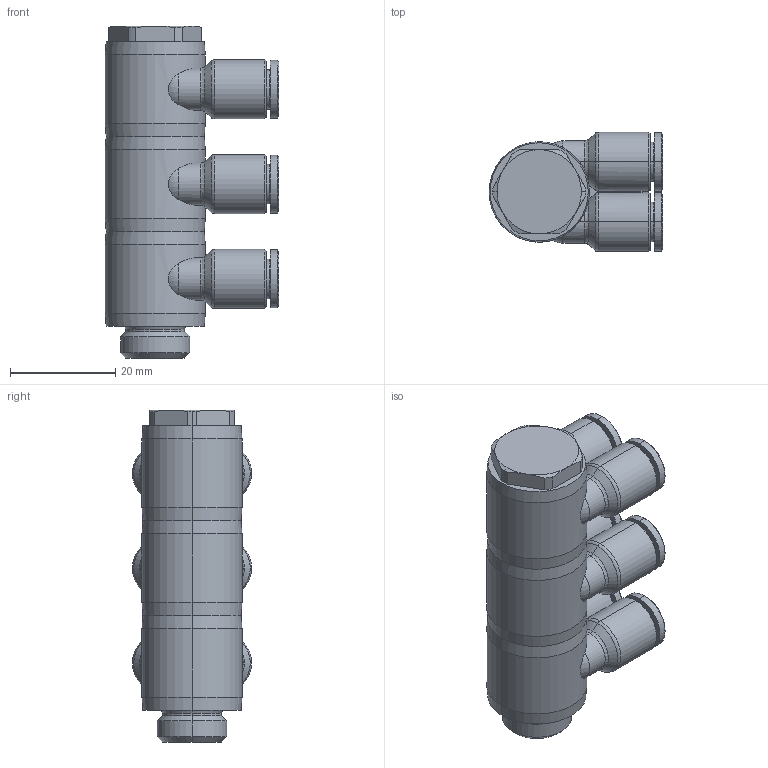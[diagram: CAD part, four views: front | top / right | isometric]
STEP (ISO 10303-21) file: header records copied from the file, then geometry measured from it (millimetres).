
FILE_DESCRIPTION((''),'2;1');
FILE_NAME('GPA_06G02(3)(3D).stp','2012-12-20T11:18:39',(''),(''),'Mechanical Desktop.R8.0.24.0','Mechanical Desktop.R8.0.24.0',', , ');
FILE_SCHEMA(('CONFIG_CONTROL_DESIGN'));
Length unit declared in the file: millimetre
Products named in the file (2): GPA_06G02(3)(3D); 睡ヶ1
Assembly tree (1 placements, depth 2):
  GPA_06G02(3)(3D)
    睡ヶ1
Bounding box: 32.95 x 22.6 x 63 mm (x, y, z)
Volume: 19041.2 mm3; surface area: 16416.6 mm2
Topology: 1 solids, 1 shells, 1497 faces, 4089 edges, 2675 vertices
Faces by surface type: plane 1029, bspline 174, cylinder 160, cone 110, torus 18, sphere 6
Entity records: 49984 total; most frequent: CARTESIAN_POINT 12143, ORIENTED_EDGE 8174, DIRECTION 7431, EDGE_CURVE 4087, VECTOR 3213, LINE 3213, VERTEX_POINT 2675, AXIS2_PLACEMENT_3D 2109
